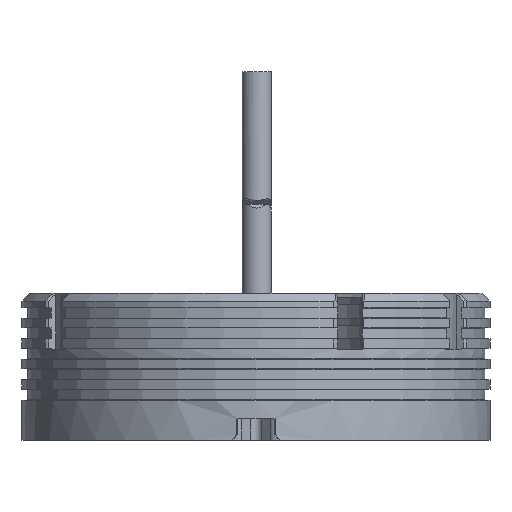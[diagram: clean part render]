
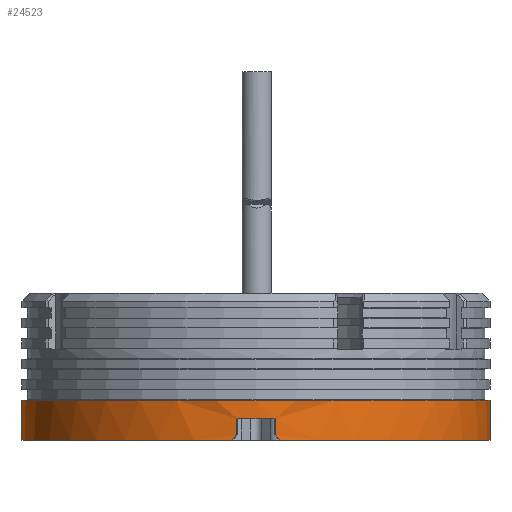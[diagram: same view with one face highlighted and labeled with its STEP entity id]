
A CAD part, front view. The second image highlights one B-rep face of the part: STEP entity #24523.
In plain terms, the highlighted cylindrical face has radius 43 mm (diameter 86 mm), a partial arc.
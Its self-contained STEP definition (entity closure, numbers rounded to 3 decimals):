
#5 = LINE ( 'NONE', #9173, #13037 ) ;
#303 = CARTESIAN_POINT ( 'NONE',  ( -43., 0., 7.4 ) ) ;
#430 = DIRECTION ( 'NONE',  ( -1., 0., 0. ) ) ;
#493 = CARTESIAN_POINT ( 'NONE',  ( 43., 0., 7.4 ) ) ;
#527 = VECTOR ( 'NONE', #20403, 1000. ) ;
#679 = ORIENTED_EDGE ( 'NONE', *, *, #2040, .T. ) ;
#971 = VERTEX_POINT ( 'NONE', #6039 ) ;
#1086 = LINE ( 'NONE', #8973, #3133 ) ;
#1783 = CARTESIAN_POINT ( 'NONE',  ( 3.5, -42.857, 1. ) ) ;
#2040 = EDGE_CURVE ( 'NONE', #6238, #18462, #8829, .T. ) ;
#2055 = ORIENTED_EDGE ( 'NONE', *, *, #8326, .T. ) ;
#2208 = ORIENTED_EDGE ( 'NONE', *, *, #23943, .T. ) ;
#2624 = VERTEX_POINT ( 'NONE', #16945 ) ;
#2725 = EDGE_CURVE ( 'NONE', #14065, #19894, #6385, .T. ) ;
#2896 = DIRECTION ( 'NONE',  ( 0., 0., -1. ) ) ;
#3013 = CIRCLE ( 'NONE', #24533, 43. ) ;
#3133 = VECTOR ( 'NONE', #16986, 1000. ) ;
#3473 = CARTESIAN_POINT ( 'NONE',  ( -4.496, -42.764, 0. ) ) ;
#4978 = DIRECTION ( 'NONE',  ( 0., 0., -1. ) ) ;
#5386 = CARTESIAN_POINT ( 'NONE',  ( -3.832, -42.83, 0.667 ) ) ;
#6039 = CARTESIAN_POINT ( 'NONE',  ( -3.5, -42.857, 1. ) ) ;
#6238 = VERTEX_POINT ( 'NONE', #7435 ) ;
#6385 = CIRCLE ( 'NONE', #8420, 43. ) ;
#6587 = ORIENTED_EDGE ( 'NONE', *, *, #13428, .T. ) ;
#6831 = CARTESIAN_POINT ( 'NONE',  ( 0., 0., 7.4 ) ) ;
#7435 = CARTESIAN_POINT ( 'NONE',  ( 3.5, -42.857, 1. ) ) ;
#7551 = EDGE_CURVE ( 'NONE', #15317, #21964, #3013, .T. ) ;
#8060 = FACE_OUTER_BOUND ( 'NONE', #22934, .T. ) ;
#8326 = EDGE_CURVE ( 'NONE', #18053, #15317, #24342, .T. ) ;
#8420 = AXIS2_PLACEMENT_3D ( 'NONE', #13135, #4978, #12755 ) ;
#8829 =( BOUNDED_CURVE ( )  B_SPLINE_CURVE ( 3, ( #1783, #17670, #23367, #9542 ),
 .UNSPECIFIED., .F., .F. ) 
 B_SPLINE_CURVE_WITH_KNOTS ( ( 4, 4 ),
 ( 4.712, 4.736 ),
 .UNSPECIFIED. ) 
 CURVE ( )  GEOMETRIC_REPRESENTATION_ITEM ( )  RATIONAL_B_SPLINE_CURVE ( ( 1., 1., 1., 1. ) ) 
 REPRESENTATION_ITEM ( '' )  );
#8973 = CARTESIAN_POINT ( 'NONE',  ( 3.5, -42.857, 27. ) ) ;
#9173 = CARTESIAN_POINT ( 'NONE',  ( -3.5, -42.857, 27. ) ) ;
#9204 = ORIENTED_EDGE ( 'NONE', *, *, #17915, .T. ) ;
#9542 = CARTESIAN_POINT ( 'NONE',  ( 4.496, -42.764, 0. ) ) ;
#9762 = DIRECTION ( 'NONE',  ( -1., 0., 0. ) ) ;
#9768 = AXIS2_PLACEMENT_3D ( 'NONE', #6831, #2896, #20437 ) ;
#9795 = CIRCLE ( 'NONE', #19142, 43. ) ;
#10111 = CARTESIAN_POINT ( 'NONE',  ( 0., 0., 27. ) ) ;
#10157 = EDGE_CURVE ( 'NONE', #21964, #971, #17010, .T. ) ;
#10731 = VERTEX_POINT ( 'NONE', #493 ) ;
#11080 = CARTESIAN_POINT ( 'NONE',  ( -3.5, -42.857, 4. ) ) ;
#11370 = CARTESIAN_POINT ( 'NONE',  ( -4.164, -42.799, 0.333 ) ) ;
#11618 = ORIENTED_EDGE ( 'NONE', *, *, #10157, .T. ) ;
#12755 = DIRECTION ( 'NONE',  ( -1., 0., 0. ) ) ;
#12851 = LINE ( 'NONE', #16796, #21822 ) ;
#13037 = VECTOR ( 'NONE', #20984, 1000. ) ;
#13135 = CARTESIAN_POINT ( 'NONE',  ( 0., 0., 4. ) ) ;
#13156 = CARTESIAN_POINT ( 'NONE',  ( -3.5, -42.857, 1. ) ) ;
#13391 = CARTESIAN_POINT ( 'NONE',  ( 4.496, -42.764, 0. ) ) ;
#13428 = EDGE_CURVE ( 'NONE', #18462, #2624, #9795, .T. ) ;
#14065 = VERTEX_POINT ( 'NONE', #21004 ) ;
#14578 = ORIENTED_EDGE ( 'NONE', *, *, #23628, .T. ) ;
#15169 = EDGE_CURVE ( 'NONE', #10731, #2624, #12851, .T. ) ;
#15317 = VERTEX_POINT ( 'NONE', #25163 ) ;
#16796 = CARTESIAN_POINT ( 'NONE',  ( 43., 0., 27. ) ) ;
#16913 = DIRECTION ( 'NONE',  ( 0., 0., 1. ) ) ;
#16945 = CARTESIAN_POINT ( 'NONE',  ( 43., 0., 0. ) ) ;
#16975 = ORIENTED_EDGE ( 'NONE', *, *, #15169, .F. ) ;
#16986 = DIRECTION ( 'NONE',  ( 0., 0., -1. ) ) ;
#17010 =( BOUNDED_CURVE ( )  B_SPLINE_CURVE ( 3, ( #3473, #11370, #5386, #13156 ),
 .UNSPECIFIED., .F., .F. ) 
 B_SPLINE_CURVE_WITH_KNOTS ( ( 4, 4 ),
 ( 1.548, 1.571 ),
 .UNSPECIFIED. ) 
 CURVE ( )  GEOMETRIC_REPRESENTATION_ITEM ( )  RATIONAL_B_SPLINE_CURVE ( ( 1., 1., 1., 1. ) ) 
 REPRESENTATION_ITEM ( '' )  );
#17670 = CARTESIAN_POINT ( 'NONE',  ( 3.832, -42.83, 0.667 ) ) ;
#17864 = DIRECTION ( 'NONE',  ( 0., 0., -1. ) ) ;
#17915 = EDGE_CURVE ( 'NONE', #14065, #6238, #1086, .T. ) ;
#18053 = VERTEX_POINT ( 'NONE', #303 ) ;
#18462 = VERTEX_POINT ( 'NONE', #13391 ) ;
#19023 = ORIENTED_EDGE ( 'NONE', *, *, #7551, .T. ) ;
#19142 = AXIS2_PLACEMENT_3D ( 'NONE', #21428, #16913, #9762 ) ;
#19765 = CYLINDRICAL_SURFACE ( 'NONE', #20753, 43. ) ;
#19894 = VERTEX_POINT ( 'NONE', #11080 ) ;
#20088 = CARTESIAN_POINT ( 'NONE',  ( 0., 0., 0. ) ) ;
#20382 = ORIENTED_EDGE ( 'NONE', *, *, #2725, .F. ) ;
#20403 = DIRECTION ( 'NONE',  ( 0., 0., -1. ) ) ;
#20437 = DIRECTION ( 'NONE',  ( -1., 0., 0. ) ) ;
#20472 = DIRECTION ( 'NONE',  ( 0., 0., -1. ) ) ;
#20506 = CARTESIAN_POINT ( 'NONE',  ( -4.496, -42.764, 0. ) ) ;
#20717 = CIRCLE ( 'NONE', #9768, 43. ) ;
#20753 = AXIS2_PLACEMENT_3D ( 'NONE', #10111, #17864, #430 ) ;
#20984 = DIRECTION ( 'NONE',  ( 0., 0., 1. ) ) ;
#21004 = CARTESIAN_POINT ( 'NONE',  ( 3.5, -42.857, 4. ) ) ;
#21428 = CARTESIAN_POINT ( 'NONE',  ( 0., 0., 0. ) ) ;
#21822 = VECTOR ( 'NONE', #20472, 1000. ) ;
#21918 = CARTESIAN_POINT ( 'NONE',  ( -43., 0., 27. ) ) ;
#21964 = VERTEX_POINT ( 'NONE', #20506 ) ;
#22231 = DIRECTION ( 'NONE',  ( 0., 0., 1. ) ) ;
#22495 = DIRECTION ( 'NONE',  ( -1., 0., 0. ) ) ;
#22934 = EDGE_LOOP ( 'NONE', ( #16975, #14578, #2055, #19023, #11618, #2208, #20382, #9204, #679, #6587 ) ) ;
#23367 = CARTESIAN_POINT ( 'NONE',  ( 4.164, -42.799, 0.333 ) ) ;
#23628 = EDGE_CURVE ( 'NONE', #10731, #18053, #20717, .T. ) ;
#23943 = EDGE_CURVE ( 'NONE', #971, #19894, #5, .T. ) ;
#24342 = LINE ( 'NONE', #21918, #527 ) ;
#24523 = ADVANCED_FACE ( 'NONE', ( #8060 ), #19765, .T. ) ;
#24533 = AXIS2_PLACEMENT_3D ( 'NONE', #20088, #22231, #22495 ) ;
#25163 = CARTESIAN_POINT ( 'NONE',  ( -43., 0., 0. ) ) ;
